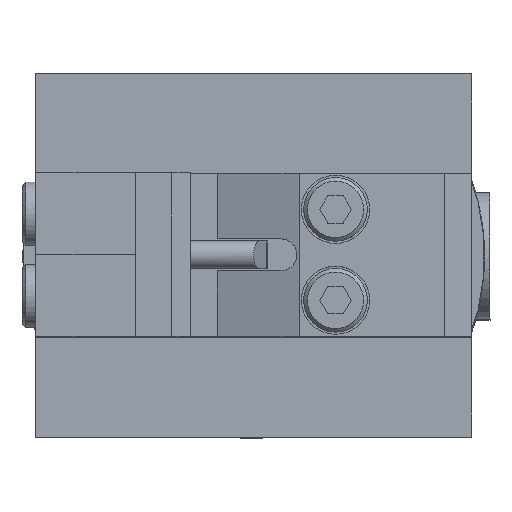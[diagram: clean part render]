
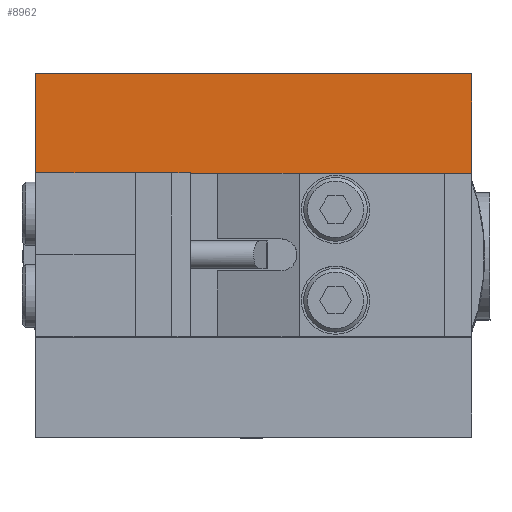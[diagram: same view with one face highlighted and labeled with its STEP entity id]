
A CAD part, top view. The second image highlights one B-rep face of the part: STEP entity #8962.
In plain terms, the highlighted planar face has unit normal (0, 0, 1) as drawn and (0, 1, 0) by its records, which use the part's own axes.
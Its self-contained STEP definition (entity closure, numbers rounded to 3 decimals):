
#1375=FACE_OUTER_BOUND('',#1931,.T.);
#1931=EDGE_LOOP('',(#7486,#7487,#7488,#7489));
#2548=LINE('',#24107,#3303);
#2590=LINE('',#24263,#3345);
#2618=LINE('',#24350,#3373);
#2619=LINE('',#24351,#3374);
#3303=VECTOR('',#11861,10.);
#3345=VECTOR('',#12025,10.);
#3373=VECTOR('',#12121,10.);
#3374=VECTOR('',#12122,10.);
#4159=VERTEX_POINT('',#24104);
#4160=VERTEX_POINT('',#24106);
#4212=VERTEX_POINT('',#24260);
#4213=VERTEX_POINT('',#24262);
#5263=EDGE_CURVE('',#4160,#4159,#2548,.T.);
#5340=EDGE_CURVE('',#4212,#4213,#2590,.T.);
#5383=EDGE_CURVE('',#4160,#4212,#2618,.T.);
#5384=EDGE_CURVE('',#4213,#4159,#2619,.T.);
#7486=ORIENTED_EDGE('',*,*,#5383,.F.);
#7487=ORIENTED_EDGE('',*,*,#5263,.T.);
#7488=ORIENTED_EDGE('',*,*,#5384,.F.);
#7489=ORIENTED_EDGE('',*,*,#5340,.F.);
#8540=PLANE('',#10120);
#8962=ADVANCED_FACE('',(#1375),#8540,.T.);
#10120=AXIS2_PLACEMENT_3D('',#24349,#12119,#12120);
#11861=DIRECTION('',(0.,0.,-1.));
#12025=DIRECTION('',(0.,0.,-1.));
#12119=DIRECTION('center_axis',(0.,1.,0.));
#12120=DIRECTION('ref_axis',(1.,0.,0.));
#12121=DIRECTION('',(-1.,0.,0.));
#12122=DIRECTION('',(1.,0.,0.));
#24104=CARTESIAN_POINT('',(24.,27.,-20.));
#24106=CARTESIAN_POINT('',(24.,27.,-9.));
#24107=CARTESIAN_POINT('',(24.,27.,-9.));
#24260=CARTESIAN_POINT('',(-24.,27.,-9.));
#24262=CARTESIAN_POINT('',(-24.,27.,-20.));
#24263=CARTESIAN_POINT('',(-24.,27.,-9.));
#24349=CARTESIAN_POINT('Origin',(-24.,27.,-9.));
#24350=CARTESIAN_POINT('',(-14.132,27.,-9.));
#24351=CARTESIAN_POINT('',(-24.,27.,-20.));
